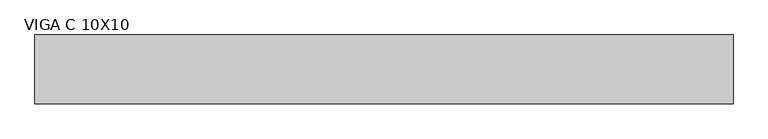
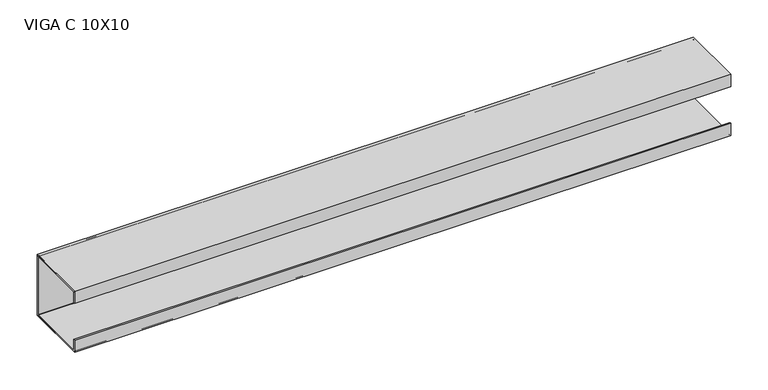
"""IFC4 building model written with IfcOpenShell, lengths in millimetres: beam geometry, VIGA PERFIL C AÇO : VIGA C 10X10."""

from ifc_helpers import new_model, si_unit, point, frame, frame_2d, origin, place, context, project, spatial, polyline, circle_curve, trimmed, segment, composite_curve, outline, extrude, source, transform, mapped, element, save


def viga_c_10x10_16984cbe(model_context):
    return source(origin(), model_context, "Body", "SweptSolid", [
        extrude(outline(polyline([(9.2, -50.0), (-90.8, -50.0), (-90.8, -30.0), (-88.9, -30.0), (-88.9, -48.1), (7.3, -48.1), (7.3, 48.1), (-88.9, 48.1), (-88.9, 30.0), (-90.8, 30.0), (-90.8, 50.0), (9.2, 50.0), (9.2, -50.0)])), frame((-514.5, 0.0, 0.0), z_axis=(1.0, 0.0, 0.0), x_axis=(0.0, 1.0, 0.0)), (0.0, 0.0, 1.0), 1014.0),
        extrude(outline(composite_curve([segment(trimmed(circle_curve(frame_2d((5.4, -46.2)), 3.8), [point((9.2, -46.2))], [point((5.4, -50.0))], False, "CARTESIAN"), True, "CONTINUOUS"), segment(polyline([(5.4, -50.0), (-87.0, -50.0)]), True, "CONTINUOUS"), segment(trimmed(circle_curve(frame_2d((-87.0, -46.2)), 3.8), [point((-87.0, -50.0))], [point((-90.8, -46.2))], False, "CARTESIAN"), True, "CONTINUOUS"), segment(polyline([(-90.8, -46.2), (-90.8, -30.0), (-88.9, -30.0), (-88.9, -46.2)]), True, "CONTINUOUS"), segment(trimmed(circle_curve(frame_2d((-87.0, -46.2)), 1.9), [point((-88.9, -46.2))], [point((-87.0, -48.1))], True, "CARTESIAN"), True, "CONTINUOUS"), segment(polyline([(-87.0, -48.1), (5.4, -48.1)]), True, "CONTINUOUS"), segment(trimmed(circle_curve(frame_2d((5.4, -46.2)), 1.9), [point((5.4, -48.1))], [point((7.3, -46.2))], True, "CARTESIAN"), True, "CONTINUOUS"), segment(polyline([(7.3, -46.2), (7.3, 46.2)]), True, "CONTINUOUS"), segment(trimmed(circle_curve(frame_2d((5.4, 46.2)), 1.9), [point((7.3, 46.2))], [point((5.4, 48.1))], True, "CARTESIAN"), True, "CONTINUOUS"), segment(polyline([(5.4, 48.1), (-87.0, 48.1)]), True, "CONTINUOUS"), segment(trimmed(circle_curve(frame_2d((-87.0, 46.2)), 1.9), [point((-87.0, 48.1))], [point((-88.9, 46.2))], True, "CARTESIAN"), True, "CONTINUOUS"), segment(polyline([(-88.9, 46.2), (-88.9, 30.0), (-90.8, 30.0), (-90.8, 46.2)]), True, "CONTINUOUS"), segment(trimmed(circle_curve(frame_2d((-87.0, 46.2)), 3.8), [point((-90.8, 46.2))], [point((-87.0, 50.0))], False, "CARTESIAN"), True, "CONTINUOUS"), segment(polyline([(-87.0, 50.0), (5.4, 50.0)]), True, "CONTINUOUS"), segment(trimmed(circle_curve(frame_2d((5.4, 46.2)), 3.8), [point((5.4, 50.0))], [point((9.2, 46.2))], False, "CARTESIAN"), True, "CONTINUOUS"), segment(polyline([(9.2, 46.2), (9.2, -46.2)]), True, "CONTINUOUS")], self_intersect=False)), frame((-514.5, 0.0, 0.0), z_axis=(1.0, 0.0, 0.0), x_axis=(0.0, 1.0, 0.0)), (0.0, 0.0, 1.0), 1014.0),
    ])


if __name__ == "__main__":
    model = new_model("IFC4")
    model_context = context("Model", 3, world=origin())
    ifc_project = project(units=[si_unit("LENGTHUNIT", "METRE", prefix="MILLI")], contexts=[model_context])
    site = spatial("IfcSite", under=ifc_project)
    building = spatial("IfcBuilding", under=site)
    placement = place(None, origin())
    viga_c_10x10_shape = viga_c_10x10_16984cbe(model_context)
    element("IfcBeam", 1, ObjectType="VIGA PERFIL C AÇO : VIGA C 10X10", at=placement, inside=building, context=model_context, shape_type="MappedRepresentation", body=[
        mapped(viga_c_10x10_shape, transform((0.0, 0.0, 0.0), x_axis=(1.0, 0.0, 0.0), y_axis=(0.0, 1.0, 0.0), z_axis=(0.0, 0.0, 1.0))),
    ])
    save(model, "model.ifc")
